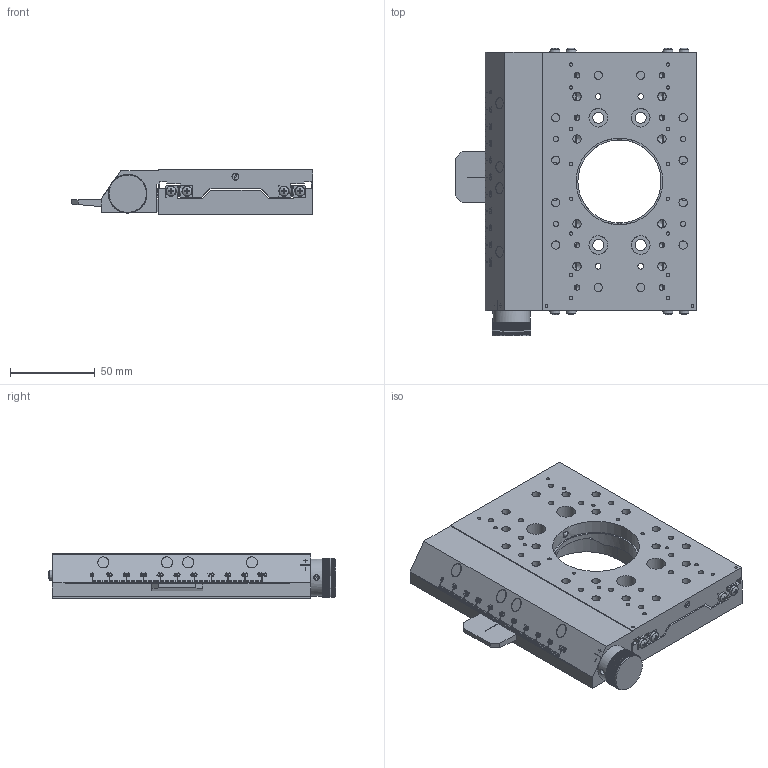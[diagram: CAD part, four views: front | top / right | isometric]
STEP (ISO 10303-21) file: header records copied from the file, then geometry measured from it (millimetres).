
FILE_DESCRIPTION(/* description */ (''),/* implementation_level */ '2;1');
FILE_NAME(/* name */ 'U:\KONSTRUKTORIAI\DOKUMENTACIJA\7\7T167-100Q\STEP\7T167-100Q.stp',/* time_stamp */ '2023-05-30T07:12:00+03:00',/* author */ ('dsgn31'),/* organization */ (''),/* preprocessor_version */ 'ST-DEVELOPER v15.2',/* originating_system */ 'Autodesk Inventor 2014',/* authorisation */ '');
FILE_SCHEMA (('CONFIG_CONTROL_DESIGN'));
Products named in the file (1): 7T167-100Q_Shrinkwrap_2
Bounding box: 142.2 x 169.58 x 26 mm (x, y, z)
Volume: 370668.2 mm3; surface area: 112158.9 mm2
Topology: 9 solids, 27 shells, 2668 faces, 7384 edges, 4871 vertices
Faces by surface type: plane 1535, cylinder 530, bspline 319, cone 232, torus 38, sphere 14
Full cylindrical faces by diameter (mm): 1.5 x34, 1.567 x4, 1.6 x2, 2.013 x32, 2.459 x50, 2.5 x6, 2.9 x4, 3 x4, 3.242 x17, 3.5 x1, 4 x4, 4.134 x4, 4.3 x34, 4.5 x32, 4.9 x20, 4.917 x14, 5 x32, 6.5 x8, 11 x8, 22 x2, 49 x1, 51 x1
Entity records: 86497 total; most frequent: CARTESIAN_POINT 23177, ORIENTED_EDGE 12962, DIRECTION 11276, EDGE_CURVE 6481, VERTEX_POINT 4463, LINE 3974, VECTOR 3974, AXIS2_PLACEMENT_3D 3651
